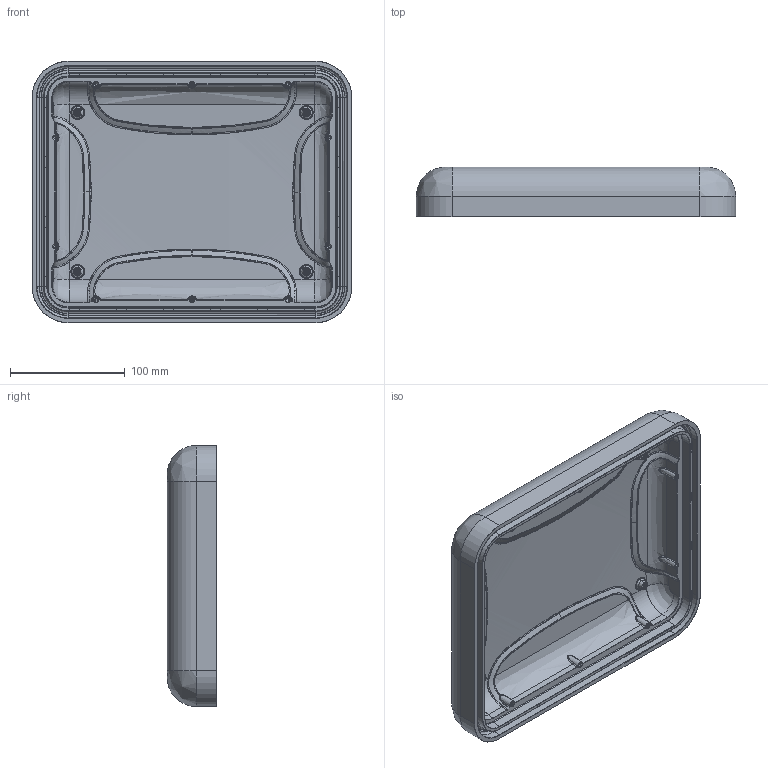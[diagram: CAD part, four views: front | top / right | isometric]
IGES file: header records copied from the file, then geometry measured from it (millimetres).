
Start section: SolidWorks IGES file using analytic representation for surfaces
Global section: file name: M:\NANUK\Solidworks\3D\Cases\905\NEW DESIGN R1\4 - 3D FILES\5 - INNER SURFACE\905_R1_Top_INNER_SURFACE_IGES.IGS; native system: SolidWorks 2022; preprocessor: SolidWorks 2022; author: dbrousseau; date: 260211.095104; units: inch
Bounding box: 278.15 x 43.18 x 227.35 mm (x, y, z)
Surface area: 193831.9 mm2 (no closed solid volume)
Topology: 0 solids, 0 shells, 825 faces, 9797 edges, 9794 vertices
Faces by surface type: bspline 679, revolution 146
